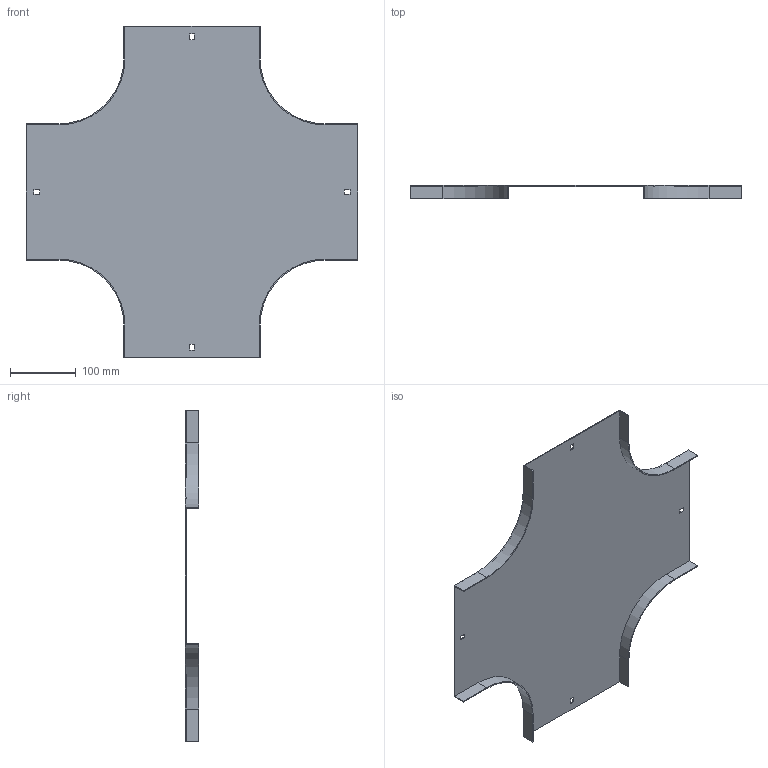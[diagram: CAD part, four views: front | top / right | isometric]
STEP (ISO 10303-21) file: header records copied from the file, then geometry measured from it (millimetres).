
FILE_DESCRIPTION (( 'STEP AP214' ), '1' );
FILE_NAME ('17N1R200.step', '2025-02-21T09:52:49', ( '' ), ( '' ), 'SwSTEP 2.0', 'SolidWorks 2023', '' );
FILE_SCHEMA (( 'AUTOMOTIVE_DESIGN' ));
Length unit declared in the file: millimetre
Products named in the file (1): 17N1R200
Bounding box: 504 x 20 x 504 mm (x, y, z)
Volume: 289257.3 mm3; surface area: 388854.7 mm2
Topology: 1 solids, 1 shells, 50 faces, 144 edges, 96 vertices
Faces by surface type: plane 42, cylinder 8
Entity records: 1663 total; most frequent: CARTESIAN_POINT 291, ORIENTED_EDGE 288, DIRECTION 262, EDGE_CURVE 144, VECTOR 128, LINE 128, VERTEX_POINT 96, AXIS2_PLACEMENT_3D 67
